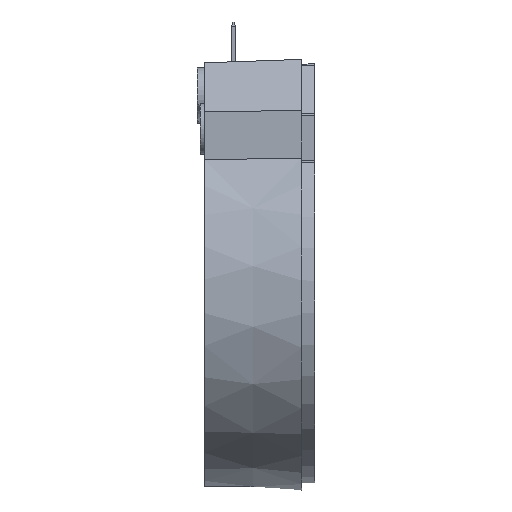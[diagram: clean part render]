
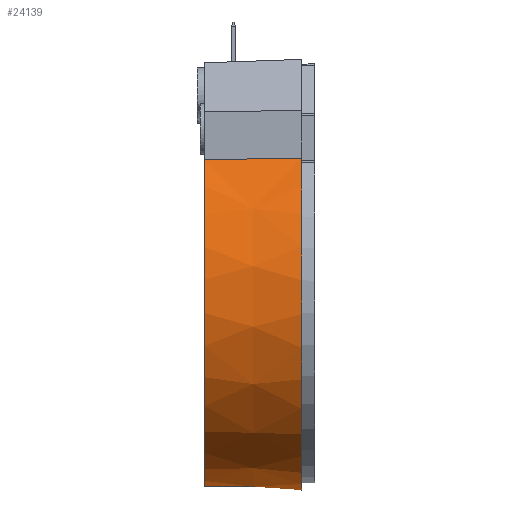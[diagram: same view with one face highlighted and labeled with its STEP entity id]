
A CAD part, left-side view. The second image highlights one B-rep face of the part: STEP entity #24139.
In plain terms, the highlighted conical face has half-angle 2 degrees and reference radius 27.991 mm.
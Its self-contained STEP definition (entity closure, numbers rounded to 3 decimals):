
#83=B_SPLINE_CURVE_WITH_KNOTS('',3,(#35978,#35979,#35980,#35981),
 .UNSPECIFIED.,.F.,.F.,(4,4),(0.,0.014),.UNSPECIFIED.);
#84=B_SPLINE_CURVE_WITH_KNOTS('',3,(#35984,#35985,#35986,#35987),
 .UNSPECIFIED.,.F.,.F.,(4,4),(0.047,0.061),
 .UNSPECIFIED.);
#1478=FACE_OUTER_BOUND('',#2797,.T.);
#2797=EDGE_LOOP('',(#15815,#15816,#15817,#15818));
#8144=CIRCLE('',#25578,27.51);
#8145=CIRCLE('',#25579,27.991);
#9675=VERTEX_POINT('',#35974);
#9676=VERTEX_POINT('',#35975);
#9677=VERTEX_POINT('',#35977);
#9678=VERTEX_POINT('',#35982);
#12144=EDGE_CURVE('',#9675,#9676,#8144,.T.);
#12145=EDGE_CURVE('',#9676,#9677,#83,.T.);
#12146=EDGE_CURVE('',#9678,#9677,#8145,.T.);
#12147=EDGE_CURVE('',#9675,#9678,#84,.T.);
#15815=ORIENTED_EDGE('',*,*,#12144,.T.);
#15816=ORIENTED_EDGE('',*,*,#12145,.T.);
#15817=ORIENTED_EDGE('',*,*,#12146,.F.);
#15818=ORIENTED_EDGE('',*,*,#12147,.F.);
#22588=CONICAL_SURFACE('',#25577,27.991,0.035);
#24139=ADVANCED_FACE('',(#1478),#22588,.T.);
#25577=AXIS2_PLACEMENT_3D('',#35973,#28556,#28557);
#25578=AXIS2_PLACEMENT_3D('',#35976,#28558,#28559);
#25579=AXIS2_PLACEMENT_3D('',#35983,#28560,#28561);
#28556=DIRECTION('center_axis',(0.,-1.,0.));
#28557=DIRECTION('ref_axis',(0.,0.,-1.));
#28558=DIRECTION('center_axis',(0.,-1.,0.));
#28559=DIRECTION('ref_axis',(-1.,0.,0.));
#28560=DIRECTION('center_axis',(0.,-1.,0.));
#28561=DIRECTION('ref_axis',(-1.,0.,0.));
#35973=CARTESIAN_POINT('Origin',(0.,-1.575,0.));
#35974=CARTESIAN_POINT('',(-19.89,12.192,19.005));
#35975=CARTESIAN_POINT('',(19.89,12.192,19.005));
#35976=CARTESIAN_POINT('Origin',(0.,12.192,0.));
#35977=CARTESIAN_POINT('',(20.371,-1.575,19.197));
#35978=CARTESIAN_POINT('Ctrl Pts',(19.89,12.192,19.005));
#35979=CARTESIAN_POINT('Ctrl Pts',(20.05,7.603,19.069));
#35980=CARTESIAN_POINT('Ctrl Pts',(20.21,3.014,19.133));
#35981=CARTESIAN_POINT('Ctrl Pts',(20.371,-1.575,19.197));
#35982=CARTESIAN_POINT('',(-20.371,-1.575,19.197));
#35983=CARTESIAN_POINT('Origin',(0.,-1.575,0.));
#35984=CARTESIAN_POINT('Ctrl Pts',(-19.89,12.192,19.005));
#35985=CARTESIAN_POINT('Ctrl Pts',(-20.05,7.603,19.069));
#35986=CARTESIAN_POINT('Ctrl Pts',(-20.21,3.014,19.133));
#35987=CARTESIAN_POINT('Ctrl Pts',(-20.371,-1.575,19.197));
